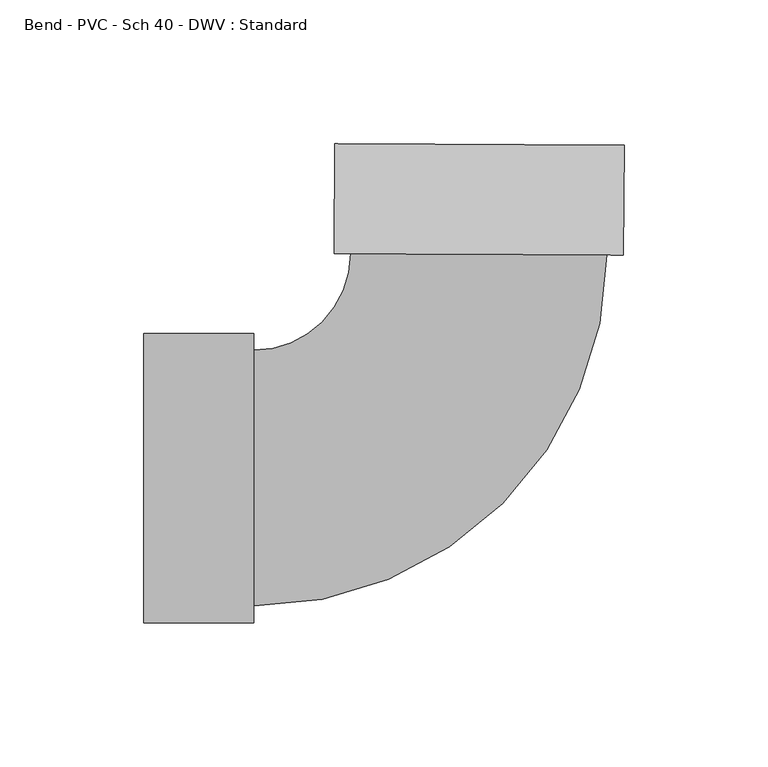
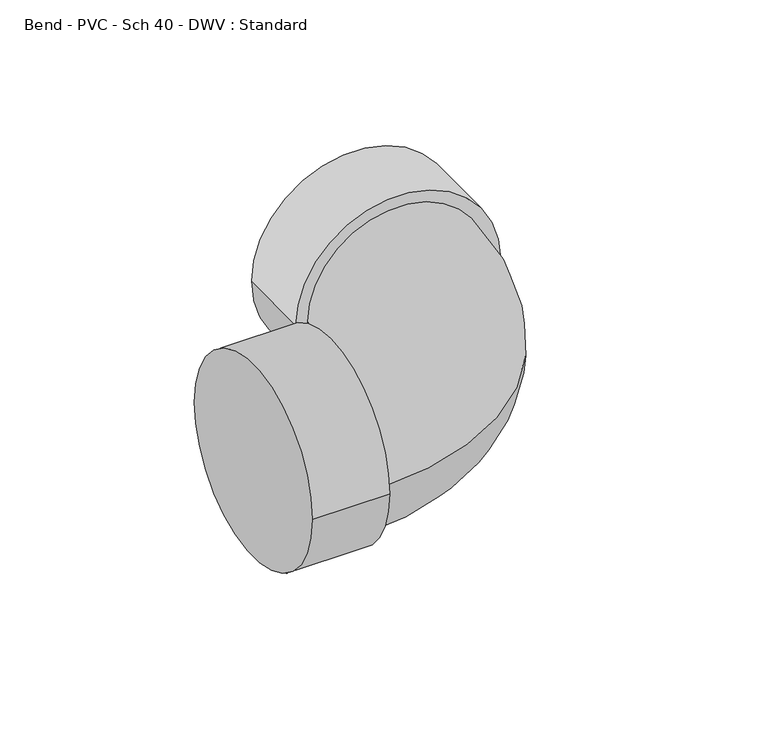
"""IFC4 building model written with IfcOpenShell, lengths in millimetres: pipe fitting geometry, Bend - PVC - Sch 40 - DWV : Standard."""

from ifc_helpers import new_model, si_unit, point, frame, origin, place, context, project, spatial, circle_curve, ellipse_curve, trimmed, source, transform, mapped, element, save
from ifc_brep_helpers import plane_surface, cylinder_surface, revolved_surface, advanced_brep


def bend_pvc_sch_40_dwv_standard_0b2bbcd0(model_context):
    return source(origin(), model_context, "Body", "AdvancedBrep", [
        advanced_brep(
        [(-115.9002, -50.2666, 0.0), (-115.9002, 50.2666, 0.0), (-77.8002, -50.2666, 0.0), (-77.8002, 50.2666, 0.0), (-77.8002, -44.45, 0.0), (-77.8002, 44.45, 0.0), (-44.0670821, 78.0177281, 0.0), (44.8318442, 77.5807925, 0.0), (50.6483739, 77.5522045, 0.0), (-49.8836118, 78.0463162, 0.0), (50.835632, 115.6517443, 0.0), (-49.6963537, 116.145856, 0.0)],
        [
            (0, 1, circle_curve(frame((-115.9002, 0.0, 0.0), z_axis=(-1.0, 0.0, 0.0), x_axis=(0.0, 1.0, 0.0)), 50.2666)),
            (1, 0, circle_curve(frame((-115.9002, 0.0, 0.0), z_axis=(-1.0, 0.0, 0.0), x_axis=(0.0, 1.0, 0.0)), 50.2666)),
            (2, 3, circle_curve(frame((-77.8002, 0.0, 0.0), z_axis=(1.0, 0.0, 0.0), x_axis=(0.0, 1.0, 0.0)), 50.2666)),
            (3, 2, circle_curve(frame((-77.8002, 0.0, 0.0), z_axis=(1.0, 0.0, 0.0), x_axis=(0.0, 1.0, 0.0)), 50.2666)),
            (4, 5, circle_curve(frame((-77.8002, 0.0, 0.0), z_axis=(-1.0, 0.0, 0.0), x_axis=(0.0, 1.0, 0.0)), 44.45)),
            (5, 4, circle_curve(frame((-77.8002, 0.0, 0.0), z_axis=(-1.0, 0.0, 0.0), x_axis=(0.0, 1.0, 0.0)), 44.45)),
            (0, 2),
            (3, 1),
            (6, 5, circle_curve(frame((-77.8002, 78.1835254, 0.0), z_axis=(0.0, 0.0, -1.0), x_axis=(0.0, -1.0, 0.0)), 33.7335254)),
            (4, 7, circle_curve(frame((-77.8002, 78.1835254, 0.0), z_axis=(0.0, 0.0, 1.0), x_axis=(0.0, -1.0, 0.0)), 122.6335254)),
            (7, 6, circle_curve(frame((0.382381, 77.7992603, 0.0), z_axis=(-0.004914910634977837, -0.999987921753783, 0.0), x_axis=(-0.999987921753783, 0.004914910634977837, 0.0)), 44.45)),
            (6, 7, circle_curve(frame((0.382381, 77.7992603, 0.0), z_axis=(-0.004914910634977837, -0.999987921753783, 0.0), x_axis=(-0.999987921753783, 0.004914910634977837, 0.0)), 44.45)),
            (8, 9, circle_curve(frame((0.382381, 77.7992603, 0.0), z_axis=(-0.004914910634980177, -0.999987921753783, 0.0), x_axis=(-0.999987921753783, 0.004914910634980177, 0.0)), 50.2666)),
            (9, 8, circle_curve(frame((0.382381, 77.7992603, 0.0), z_axis=(-0.004914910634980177, -0.999987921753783, 0.0), x_axis=(-0.999987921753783, 0.004914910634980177, 0.0)), 50.2666)),
            (10, 11, circle_curve(frame((0.5696391, 115.8988001, 0.0), z_axis=(0.004914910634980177, 0.999987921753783, 0.0), x_axis=(-0.999987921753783, 0.004914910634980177, 0.0)), 50.2666)),
            (11, 10, circle_curve(frame((0.5696391, 115.8988001, 0.0), z_axis=(0.004914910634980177, 0.999987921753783, 0.0), x_axis=(-0.999987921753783, 0.004914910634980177, 0.0)), 50.2666)),
            (8, 10),
            (11, 9),
        ],
        [
            plane_surface(frame((-115.9002, 0.0, 0.0), z_axis=(-1.0, 0.0, 0.0), x_axis=(0.0, 0.0, 1.0))),
            plane_surface(frame((-77.8002, 0.0, 0.0), z_axis=(1.0, 0.0, 0.0), x_axis=(0.0, 0.0, 1.0))),
            cylinder_surface(frame((-115.9002, 0.0, 0.0), z_axis=(-1.0, 0.0, 0.0), x_axis=(0.0, 1.0, 0.0)), 50.2666),
            revolved_surface(trimmed(ellipse_curve(frame((-77.8002, 0.0, 0.0), z_axis=(-1.0, 0.0, 0.0), x_axis=(0.0, 1.0, 0.0)), 44.45, 44.45), [point((-77.8002, -44.45, 0.0))], [point((-77.8002, 44.45, 0.0))], True, "CARTESIAN"), (-77.8002, 78.1835254, 0.0), (0.0, 0.0, 1.0)),
            revolved_surface(trimmed(ellipse_curve(frame((-77.8002, 0.0, 0.0), z_axis=(-1.0, 0.0, 0.0), x_axis=(0.0, 1.0, 0.0)), 44.45, 44.45), [point((-77.8002, 44.45, 0.0))], [point((-77.8002, -44.45, 0.0))], True, "CARTESIAN"), (-77.8002, 78.1835254, 0.0), (0.0, 0.0, 1.0)),
            plane_surface(frame((0.382381, 77.7992603, 0.0), z_axis=(-0.004914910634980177, -0.999987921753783, 0.0), x_axis=(0.0, 0.0, 1.0))),
            plane_surface(frame((0.5696391, 115.8988001, 0.0), z_axis=(0.004914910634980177, 0.999987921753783, 0.0), x_axis=(0.0, 0.0, 1.0))),
            cylinder_surface(frame((0.382381, 77.7992603, 0.0), z_axis=(-0.004914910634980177, -0.999987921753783, 0.0), x_axis=(-0.999987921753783, 0.004914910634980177, 0.0)), 50.2666),
        ],
        [
            (0, [[1, 2]]),
            (1, [[3, 4], [5, 6]]),
            (2, [[-1, 7, -4, 8]]),
            (2, [[-2, -8, -3, -7]]),
            (3, [[9, -5, 10, 11]]),
            (4, [[-9, 12, -10, -6]]),
            (5, [[13, 14], [-11, -12]]),
            (6, [[15, 16]]),
            (7, [[-13, 17, -16, 18]]),
            (7, [[-14, -18, -15, -17]]),
        ],
    ),
    ])


if __name__ == "__main__":
    model = new_model("IFC4")
    model_context = context("Model", 3, world=origin())
    ifc_project = project(units=[si_unit("LENGTHUNIT", "METRE", prefix="MILLI")], contexts=[model_context])
    site = spatial("IfcSite", under=ifc_project)
    building = spatial("IfcBuilding", under=site)
    placement = place(None, origin())
    bend_pvc_sch_40_dwv_standard_shape = bend_pvc_sch_40_dwv_standard_0b2bbcd0(model_context)
    element("IfcPipeFitting", 1, ObjectType="Bend - PVC - Sch 40 - DWV : Standard", at=placement, inside=building, context=model_context, shape_type="MappedRepresentation", body=[
        mapped(bend_pvc_sch_40_dwv_standard_shape, transform((0.0, 0.0, 0.0), x_axis=(1.0, 0.0, 0.0), y_axis=(0.0, 1.0, 0.0), z_axis=(0.0, 0.0, 1.0))),
    ])
    save(model, "model.ifc")
